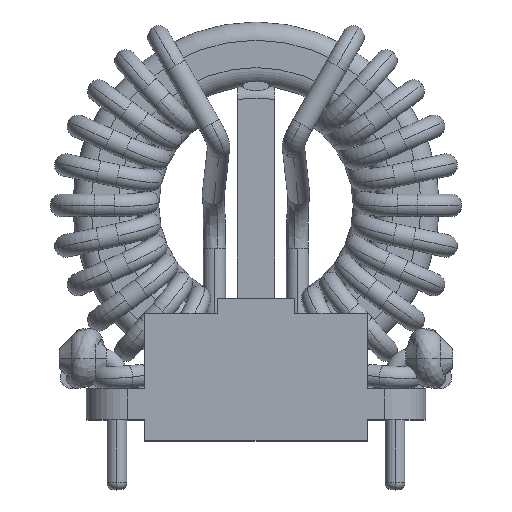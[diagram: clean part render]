
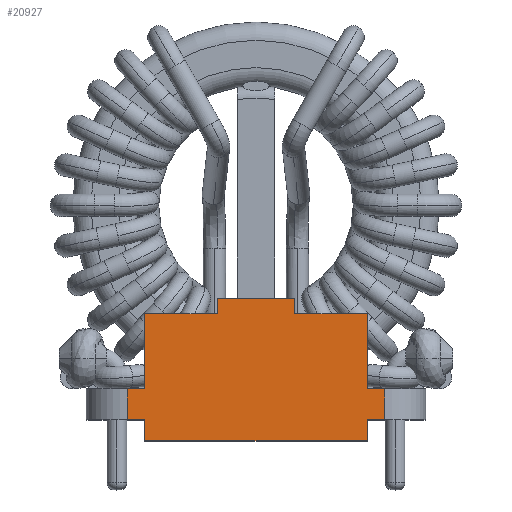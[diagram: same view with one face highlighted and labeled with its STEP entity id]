
A CAD part, top view. The second image highlights one B-rep face of the part: STEP entity #20927.
In plain terms, the highlighted planar face has unit normal (0, 0, 1).
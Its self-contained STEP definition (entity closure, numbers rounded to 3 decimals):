
#363 = EDGE_CURVE ( 'NONE', #20486, #11299, #21603, .T. ) ;
#464 = VECTOR ( 'NONE', #10461, 1000. ) ;
#581 = CARTESIAN_POINT ( 'NONE',  ( -13.97, 2.54, 11.13 ) ) ;
#715 = VERTEX_POINT ( 'NONE', #1013 ) ;
#747 = VECTOR ( 'NONE', #20205, 1000. ) ;
#863 = EDGE_CURVE ( 'NONE', #5070, #17649, #21286, .T. ) ;
#1000 = CARTESIAN_POINT ( 'NONE',  ( -9.15, 8.71, 11.13 ) ) ;
#1013 = CARTESIAN_POINT ( 'NONE',  ( 9.15, -1.75, 11.13 ) ) ;
#1134 = LINE ( 'NONE', #1522, #9884 ) ;
#1145 = VECTOR ( 'NONE', #9774, 1000. ) ;
#1257 = CARTESIAN_POINT ( 'NONE',  ( -13.97, 0., 11.13 ) ) ;
#1522 = CARTESIAN_POINT ( 'NONE',  ( 10.57, 2.54, 11.13 ) ) ;
#1775 = DIRECTION ( 'NONE',  ( 1., 0., 0. ) ) ;
#1786 = CARTESIAN_POINT ( 'NONE',  ( -10.57, 2.54, 11.13 ) ) ;
#1852 = ORIENTED_EDGE ( 'NONE', *, *, #21865, .T. ) ;
#2104 = LINE ( 'NONE', #15222, #9382 ) ;
#2189 = EDGE_CURVE ( 'NONE', #17013, #13973, #16705, .T. ) ;
#2503 = ORIENTED_EDGE ( 'NONE', *, *, #22155, .F. ) ;
#2700 = CARTESIAN_POINT ( 'NONE',  ( 3.19, 8.71, 11.13 ) ) ;
#2748 = EDGE_CURVE ( 'NONE', #13384, #4996, #1134, .T. ) ;
#2902 = CARTESIAN_POINT ( 'NONE',  ( 9.15, 2.54, 11.13 ) ) ;
#3295 = DIRECTION ( 'NONE',  ( -1., 0., 0. ) ) ;
#3468 = EDGE_CURVE ( 'NONE', #6694, #19550, #6428, .T. ) ;
#3942 = LINE ( 'NONE', #10770, #23207 ) ;
#4011 = LINE ( 'NONE', #5563, #14819 ) ;
#4082 = CARTESIAN_POINT ( 'NONE',  ( 9.15, 9.98, 11.13 ) ) ;
#4764 = CARTESIAN_POINT ( 'NONE',  ( 10.57, 0., 11.13 ) ) ;
#4832 = EDGE_CURVE ( 'NONE', #19550, #22342, #18397, .T. ) ;
#4912 = CARTESIAN_POINT ( 'NONE',  ( 9.15, 9.98, 11.13 ) ) ;
#4996 = VERTEX_POINT ( 'NONE', #23958 ) ;
#5003 = DIRECTION ( 'NONE',  ( 0., -1., 0. ) ) ;
#5070 = VERTEX_POINT ( 'NONE', #22186 ) ;
#5267 = ORIENTED_EDGE ( 'NONE', *, *, #3468, .T. ) ;
#5300 = VECTOR ( 'NONE', #17185, 1000. ) ;
#5563 = CARTESIAN_POINT ( 'NONE',  ( -13.97, 0., 11.13 ) ) ;
#6076 = EDGE_CURVE ( 'NONE', #7612, #17649, #3942, .T. ) ;
#6428 = LINE ( 'NONE', #1257, #15448 ) ;
#6694 = VERTEX_POINT ( 'NONE', #17574 ) ;
#7349 = DIRECTION ( 'NONE',  ( 1., 0., 0. ) ) ;
#7612 = VERTEX_POINT ( 'NONE', #23983 ) ;
#7641 = DIRECTION ( 'NONE',  ( 0., -1., 0. ) ) ;
#7646 = EDGE_LOOP ( 'NONE', ( #10236, #1852, #5267, #11365, #11440, #22635, #21756, #17566, #2503, #15205, #9145, #24477, #10152, #19116, #9844, #22826 ) ) ;
#9145 = ORIENTED_EDGE ( 'NONE', *, *, #2189, .F. ) ;
#9250 = FACE_OUTER_BOUND ( 'NONE', #7646, .T. ) ;
#9382 = VECTOR ( 'NONE', #15803, 1000. ) ;
#9453 = VECTOR ( 'NONE', #23741, 1000. ) ;
#9774 = DIRECTION ( 'NONE',  ( 1., 0., 0. ) ) ;
#9784 = LINE ( 'NONE', #4082, #21508 ) ;
#9844 = ORIENTED_EDGE ( 'NONE', *, *, #17537, .F. ) ;
#9884 = VECTOR ( 'NONE', #18628, 1000. ) ;
#10152 = ORIENTED_EDGE ( 'NONE', *, *, #863, .T. ) ;
#10187 = PLANE ( 'NONE',  #21721 ) ;
#10236 = ORIENTED_EDGE ( 'NONE', *, *, #14221, .F. ) ;
#10461 = DIRECTION ( 'NONE',  ( 1., 0., 0. ) ) ;
#10770 = CARTESIAN_POINT ( 'NONE',  ( -3.19, 9.98, 11.13 ) ) ;
#11133 = DIRECTION ( 'NONE',  ( 1., 0., 0. ) ) ;
#11299 = VERTEX_POINT ( 'NONE', #14431 ) ;
#11365 = ORIENTED_EDGE ( 'NONE', *, *, #4832, .T. ) ;
#11440 = ORIENTED_EDGE ( 'NONE', *, *, #14668, .F. ) ;
#11541 = CARTESIAN_POINT ( 'NONE',  ( -3.19, 8.71, 11.13 ) ) ;
#11651 = VERTEX_POINT ( 'NONE', #17183 ) ;
#11868 = EDGE_CURVE ( 'NONE', #13973, #16540, #9784, .T. ) ;
#11917 = LINE ( 'NONE', #20127, #464 ) ;
#11974 = VECTOR ( 'NONE', #5003, 1000. ) ;
#12296 = LINE ( 'NONE', #11541, #1145 ) ;
#12350 = CARTESIAN_POINT ( 'NONE',  ( 3.19, 9.98, 11.13 ) ) ;
#12835 = EDGE_CURVE ( 'NONE', #5070, #17013, #19678, .T. ) ;
#13384 = VERTEX_POINT ( 'NONE', #4764 ) ;
#13594 = VECTOR ( 'NONE', #1775, 1000. ) ;
#13876 = CARTESIAN_POINT ( 'NONE',  ( 9.15, 8.71, 11.13 ) ) ;
#13973 = VERTEX_POINT ( 'NONE', #13876 ) ;
#14221 = EDGE_CURVE ( 'NONE', #22759, #11299, #17495, .T. ) ;
#14369 = DIRECTION ( 'NONE',  ( -1., 0., 0. ) ) ;
#14431 = CARTESIAN_POINT ( 'NONE',  ( -9.15, 2.54, 11.13 ) ) ;
#14440 = CARTESIAN_POINT ( 'NONE',  ( -9.15, 0., 11.13 ) ) ;
#14646 = CARTESIAN_POINT ( 'NONE',  ( -9.15, -1.75, 11.13 ) ) ;
#14668 = EDGE_CURVE ( 'NONE', #715, #22342, #2104, .T. ) ;
#14740 = CARTESIAN_POINT ( 'NONE',  ( -9.15, 9.98, 11.13 ) ) ;
#14819 = VECTOR ( 'NONE', #7349, 1000. ) ;
#15205 = ORIENTED_EDGE ( 'NONE', *, *, #11868, .F. ) ;
#15222 = CARTESIAN_POINT ( 'NONE',  ( -9.15, -1.75, 11.13 ) ) ;
#15448 = VECTOR ( 'NONE', #11133, 1000. ) ;
#15803 = DIRECTION ( 'NONE',  ( -1., 0., 0. ) ) ;
#16040 = DIRECTION ( 'NONE',  ( 0., 0., -1. ) ) ;
#16329 = CARTESIAN_POINT ( 'NONE',  ( 3.19, 8.71, 11.13 ) ) ;
#16540 = VERTEX_POINT ( 'NONE', #2902 ) ;
#16705 = LINE ( 'NONE', #16329, #747 ) ;
#16753 = VECTOR ( 'NONE', #3295, 1000. ) ;
#17013 = VERTEX_POINT ( 'NONE', #2700 ) ;
#17183 = CARTESIAN_POINT ( 'NONE',  ( 9.15, 0., 11.13 ) ) ;
#17185 = DIRECTION ( 'NONE',  ( 0., -1., 0. ) ) ;
#17495 = LINE ( 'NONE', #19033, #13594 ) ;
#17537 = EDGE_CURVE ( 'NONE', #20486, #7612, #12296, .T. ) ;
#17566 = ORIENTED_EDGE ( 'NONE', *, *, #2748, .T. ) ;
#17574 = CARTESIAN_POINT ( 'NONE',  ( -10.57, 0., 11.13 ) ) ;
#17649 = VERTEX_POINT ( 'NONE', #17886 ) ;
#17886 = CARTESIAN_POINT ( 'NONE',  ( -3.19, 9.98, 11.13 ) ) ;
#18295 = LINE ( 'NONE', #4912, #22840 ) ;
#18383 = EDGE_CURVE ( 'NONE', #11651, #715, #18295, .T. ) ;
#18397 = LINE ( 'NONE', #21097, #22040 ) ;
#18628 = DIRECTION ( 'NONE',  ( 0., 1., 0. ) ) ;
#19033 = CARTESIAN_POINT ( 'NONE',  ( -13.97, 2.54, 11.13 ) ) ;
#19116 = ORIENTED_EDGE ( 'NONE', *, *, #6076, .F. ) ;
#19550 = VERTEX_POINT ( 'NONE', #14440 ) ;
#19678 = LINE ( 'NONE', #12350, #9453 ) ;
#19737 = LINE ( 'NONE', #1786, #5300 ) ;
#20127 = CARTESIAN_POINT ( 'NONE',  ( -13.97, 2.54, 11.13 ) ) ;
#20205 = DIRECTION ( 'NONE',  ( 1., 0., 0. ) ) ;
#20404 = CARTESIAN_POINT ( 'NONE',  ( -10.57, 2.54, 11.13 ) ) ;
#20486 = VERTEX_POINT ( 'NONE', #1000 ) ;
#20927 = ADVANCED_FACE ( 'NONE', ( #9250 ), #10187, .F. ) ;
#21097 = CARTESIAN_POINT ( 'NONE',  ( -9.15, 9.98, 11.13 ) ) ;
#21286 = LINE ( 'NONE', #14740, #16753 ) ;
#21508 = VECTOR ( 'NONE', #23438, 1000. ) ;
#21603 = LINE ( 'NONE', #22006, #11974 ) ;
#21721 = AXIS2_PLACEMENT_3D ( 'NONE', #581, #16040, #14369 ) ;
#21756 = ORIENTED_EDGE ( 'NONE', *, *, #24604, .T. ) ;
#21865 = EDGE_CURVE ( 'NONE', #22759, #6694, #19737, .T. ) ;
#21997 = DIRECTION ( 'NONE',  ( 0., -1., 0. ) ) ;
#22006 = CARTESIAN_POINT ( 'NONE',  ( -9.15, 9.98, 11.13 ) ) ;
#22040 = VECTOR ( 'NONE', #7641, 1000. ) ;
#22155 = EDGE_CURVE ( 'NONE', #16540, #4996, #11917, .T. ) ;
#22186 = CARTESIAN_POINT ( 'NONE',  ( 3.19, 9.98, 11.13 ) ) ;
#22342 = VERTEX_POINT ( 'NONE', #14646 ) ;
#22635 = ORIENTED_EDGE ( 'NONE', *, *, #18383, .F. ) ;
#22759 = VERTEX_POINT ( 'NONE', #20404 ) ;
#22826 = ORIENTED_EDGE ( 'NONE', *, *, #363, .T. ) ;
#22840 = VECTOR ( 'NONE', #21997, 1000. ) ;
#23207 = VECTOR ( 'NONE', #24221, 1000. ) ;
#23438 = DIRECTION ( 'NONE',  ( 0., -1., 0. ) ) ;
#23741 = DIRECTION ( 'NONE',  ( 0., -1., 0. ) ) ;
#23958 = CARTESIAN_POINT ( 'NONE',  ( 10.57, 2.54, 11.13 ) ) ;
#23983 = CARTESIAN_POINT ( 'NONE',  ( -3.19, 8.71, 11.13 ) ) ;
#24221 = DIRECTION ( 'NONE',  ( 0., 1., 0. ) ) ;
#24477 = ORIENTED_EDGE ( 'NONE', *, *, #12835, .F. ) ;
#24604 = EDGE_CURVE ( 'NONE', #11651, #13384, #4011, .T. ) ;
